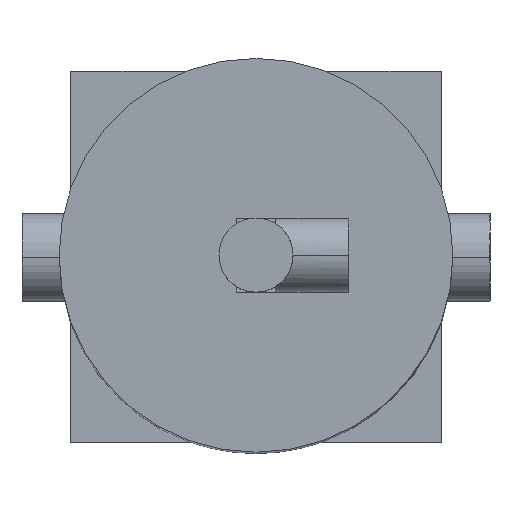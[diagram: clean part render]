
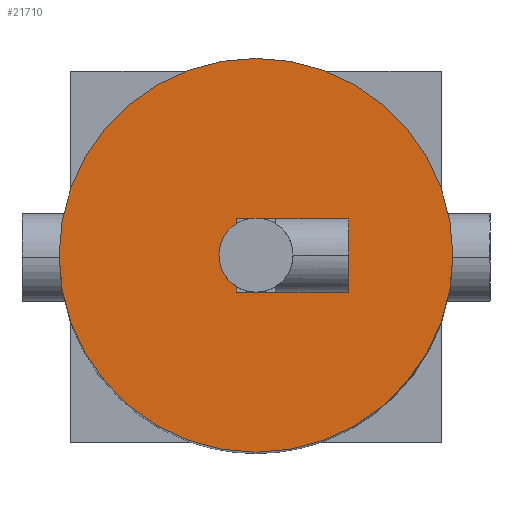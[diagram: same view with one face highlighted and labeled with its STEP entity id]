
A CAD part, top view. The second image highlights one B-rep face of the part: STEP entity #21710.
In plain terms, the highlighted planar face has unit normal (0, 0, 1) as drawn and (0, -0.707, 0.707) by its records, which use the part's own axes.
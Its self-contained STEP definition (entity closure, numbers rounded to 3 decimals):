
#20820=CARTESIAN_POINT('',(-13.5,-83.81,
182.846));
#20830=VERTEX_POINT('',#20820);
#21020=CARTESIAN_POINT('',(-13.5,-143.914,
122.741));
#21030=VERTEX_POINT('',#21020);
#21060=CARTESIAN_POINT('',(-13.5,-113.862,
152.794));
#21070=DIRECTION('',(0.,-0.707,
0.707));
#21080=DIRECTION('',(0.,-0.707,
-0.707));
#21090=AXIS2_PLACEMENT_3D('',#21060,#21070,#21080);
#21100=CIRCLE('',#21090,42.5);
#21110=EDGE_CURVE('',#21030,#20830,#21100,.T.);
#21460=CARTESIAN_POINT('',(-13.5,-128.888,
137.767));
#21470=DIRECTION('',(0.,0.707,
-0.707));
#21480=DIRECTION('',(0.,-0.707,
-0.707));
#21490=AXIS2_PLACEMENT_3D('',#21460,#21470,#21480);
#21500=PLANE('',#21490);
#21510=CARTESIAN_POINT('',(-13.5,-113.862,
152.794));
#21520=DIRECTION('',(0.,-0.707,
0.707));
#21530=DIRECTION('',(-1.,0.,0.));
#21540=AXIS2_PLACEMENT_3D('',#21510,#21520,#21530);
#21550=CIRCLE('',#21540,8.);
#21560=CARTESIAN_POINT('',(-21.5,-113.862,
152.794));
#21570=VERTEX_POINT('',#21560);
#21580=CARTESIAN_POINT('',(-5.5,-113.862,
152.794));
#21590=VERTEX_POINT('',#21580);
#21600=EDGE_CURVE('',#21570,#21590,#21550,.T.);
#21610=ORIENTED_EDGE('',*,*,#21600,.F.);
#21620=EDGE_CURVE('',#21590,#21570,#21550,.T.);
#21630=ORIENTED_EDGE('',*,*,#21620,.F.);
#21640=EDGE_LOOP('',(#21630,#21610));
#21650=FACE_BOUND('',#21640,.T.);
#21660=EDGE_CURVE('',#20830,#21030,#21100,.T.);
#21670=ORIENTED_EDGE('',*,*,#21660,.T.);
#21680=ORIENTED_EDGE('',*,*,#21110,.T.);
#21690=EDGE_LOOP('',(#21680,#21670));
#21700=FACE_OUTER_BOUND('',#21690,.T.);
#21710=ADVANCED_FACE('',(#21650,#21700),#21500,.F.);
